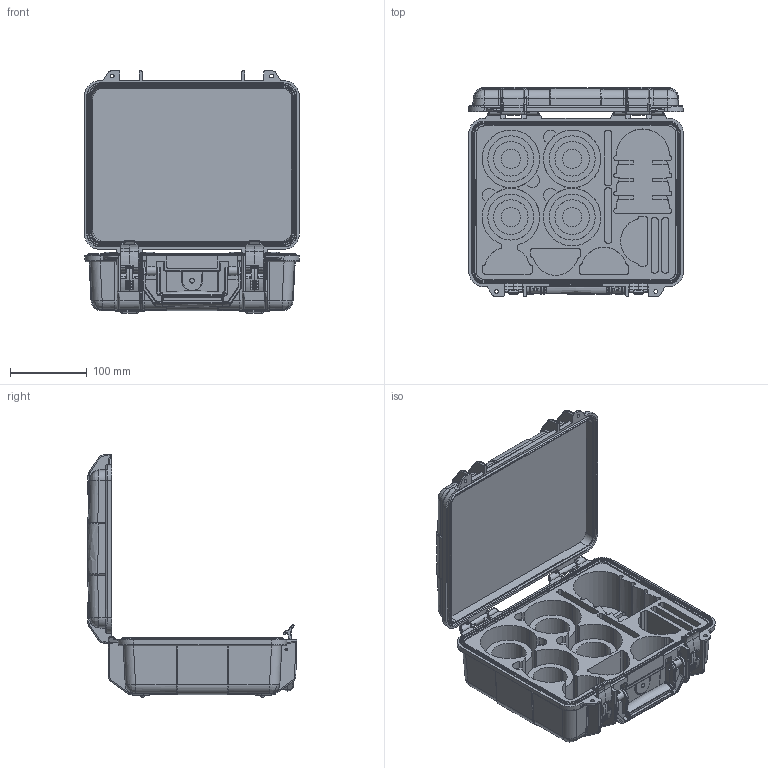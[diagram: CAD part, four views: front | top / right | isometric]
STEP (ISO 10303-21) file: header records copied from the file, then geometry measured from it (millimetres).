
FILE_DESCRIPTION(('FreeCAD Model'),'2;1');
FILE_NAME('Open CASCADE Shape Model','2024-08-30T09:23:06',( 'Lukas Balthasar Pank'),('Astera LED Technology GmbH'), 'Open CASCADE STEP processor 7.6','FreeCAD','Unknown');
FILE_SCHEMA(('AUTOMOTIVE_DESIGN { 1 0 10303 214 1 1 1 1 }'));
Length unit declared in the file: millimetre
Products named in the file (41): FP7-ACCCSE_Accessory Case for LunaBulb_Open_3Dstep_V2; Case Foam; Case; Bottom_box; Cover_Box; Latch; Latch-A; handle; Case Foam Top
Assembly tree (40 placements, depth 4):
  FP7-ACCCSE_Accessory Case for LunaBulb_Open_3Dstep_V2
    Case Foam
    Case
      Bottom_box
      Cover_Box
        Cover_Box
      Latch
        Latch
        Latch
        Latch
        Latch
        Latch
        Latch
        Latch
        Latch
        Latch
        Latch
        Latch
        Latch
        Latch
        Latch
        Latch
        Latch
        Latch
        Latch
        Latch
        Latch
        Latch
        Latch
        Latch
        Latch
      Latch-A
        Latch-A
        Latch-A
        Latch-A
        Latch-A
      handle
        handle
        handle
        handle
    Case Foam Top
Bounding box: 280.25 x 273.44 x 316.5 mm (x, y, z)
Volume: 2875382.3 mm3; surface area: 954512.9 mm2
Topology: 6 solids, 35 shells, 2732 faces, 7185 edges, 4462 vertices
Faces by surface type: plane 895, cylinder 786, bspline 642, cone 257, torus 142, sphere 10
Entity records: 134546 total; most frequent: CARTESIAN_POINT 74078, ORIENTED_EDGE 14018, DIRECTION 9792, EDGE_CURVE 7179, VERTEX_POINT 4462, AXIS2_PLACEMENT_3D 3534, FACE_BOUND 2817, EDGE_LOOP 2817
